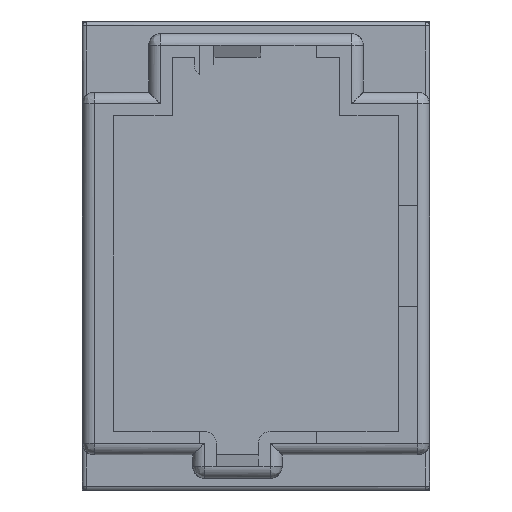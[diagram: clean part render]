
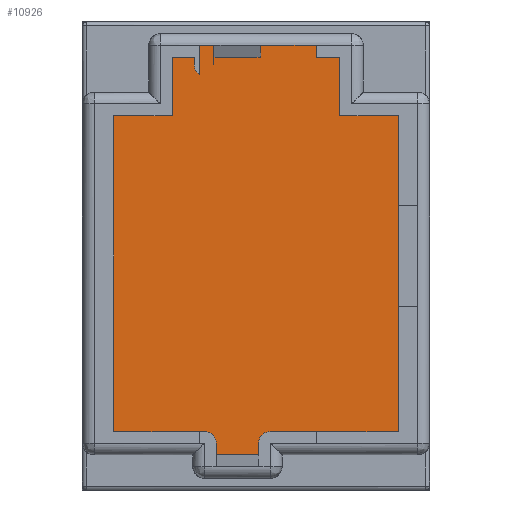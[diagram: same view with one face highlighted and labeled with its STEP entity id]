
A CAD part, front view. The second image highlights one B-rep face of the part: STEP entity #10926.
In plain terms, the highlighted planar face has unit normal (0, -1, 0).
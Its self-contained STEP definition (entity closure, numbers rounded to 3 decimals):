
#10926=ADVANCED_FACE('',(#11890),#33666,.T.);
#11890=FACE_OUTER_BOUND('',#12874,.T.);
#12874=EDGE_LOOP('',(#17544,#17545,#17546,#17547,#17548,#17549,#17550,#17551,
#17552,#17553,#17554,#17555,#17556,#17557,#17558,#17559,#17560,#17561));
#17544=ORIENTED_EDGE('',*,*,#22565,.T.);
#17545=ORIENTED_EDGE('',*,*,#22566,.T.);
#17546=ORIENTED_EDGE('',*,*,#22567,.T.);
#17547=ORIENTED_EDGE('',*,*,#22568,.T.);
#17548=ORIENTED_EDGE('',*,*,#22569,.T.);
#17549=ORIENTED_EDGE('',*,*,#22570,.T.);
#17550=ORIENTED_EDGE('',*,*,#22571,.T.);
#17551=ORIENTED_EDGE('',*,*,#22572,.T.);
#17552=ORIENTED_EDGE('',*,*,#22573,.T.);
#17553=ORIENTED_EDGE('',*,*,#22574,.T.);
#17554=ORIENTED_EDGE('',*,*,#22575,.T.);
#17555=ORIENTED_EDGE('',*,*,#22576,.T.);
#17556=ORIENTED_EDGE('',*,*,#22577,.T.);
#17557=ORIENTED_EDGE('',*,*,#22578,.T.);
#17558=ORIENTED_EDGE('',*,*,#22579,.T.);
#17559=ORIENTED_EDGE('',*,*,#22580,.T.);
#17560=ORIENTED_EDGE('',*,*,#22581,.T.);
#17561=ORIENTED_EDGE('',*,*,#22582,.T.);
#22565=EDGE_CURVE('',#32607,#32608,#23601,.T.);
#22566=EDGE_CURVE('',#32608,#32609,#27601,.T.);
#22567=EDGE_CURVE('',#32609,#32610,#27602,.T.);
#22568=EDGE_CURVE('',#32610,#32611,#27603,.T.);
#22569=EDGE_CURVE('',#32611,#32612,#27604,.T.);
#22570=EDGE_CURVE('',#32612,#32613,#27605,.T.);
#22571=EDGE_CURVE('',#32613,#32614,#27606,.T.);
#22572=EDGE_CURVE('',#32614,#32615,#27607,.T.);
#22573=EDGE_CURVE('',#32615,#32616,#27608,.T.);
#22574=EDGE_CURVE('',#32616,#32617,#27609,.T.);
#22575=EDGE_CURVE('',#32617,#32618,#27610,.T.);
#22576=EDGE_CURVE('',#32618,#32619,#27611,.T.);
#22577=EDGE_CURVE('',#32619,#32620,#27612,.T.);
#22578=EDGE_CURVE('',#32620,#32621,#27613,.T.);
#22579=EDGE_CURVE('',#32621,#32622,#27614,.T.);
#22580=EDGE_CURVE('',#32622,#32623,#27615,.T.);
#22581=EDGE_CURVE('',#32623,#32624,#27616,.T.);
#22582=EDGE_CURVE('',#32624,#32607,#27617,.T.);
#23601=(
BOUNDED_CURVE()
B_SPLINE_CURVE(2,(#56876,#56877,#56878),.UNSPECIFIED.,.F.,.F.)
B_SPLINE_CURVE_WITH_KNOTS((3,3),(0.,0.316),.UNSPECIFIED.)
CURVE()
GEOMETRIC_REPRESENTATION_ITEM()
RATIONAL_B_SPLINE_CURVE((1.,0.885,1.))
REPRESENTATION_ITEM('')
);
#27601=B_SPLINE_CURVE_WITH_KNOTS('',1,(#56879,#56880),.UNSPECIFIED.,.F.,
 .F.,(2,2),(0.,0.2),.UNSPECIFIED.);
#27602=B_SPLINE_CURVE_WITH_KNOTS('',1,(#56881,#56882),.UNSPECIFIED.,.F.,
 .F.,(2,2),(0.,0.57),.UNSPECIFIED.);
#27603=B_SPLINE_CURVE_WITH_KNOTS('',1,(#56883,#56884),.UNSPECIFIED.,.F.,
 .F.,(2,2),(0.,1.5),.UNSPECIFIED.);
#27604=B_SPLINE_CURVE_WITH_KNOTS('',1,(#56885,#56886),.UNSPECIFIED.,.F.,
 .F.,(2,2),(0.,1.5),.UNSPECIFIED.);
#27605=B_SPLINE_CURVE_WITH_KNOTS('',1,(#56887,#56888),.UNSPECIFIED.,.F.,
 .F.,(2,2),(0.,8.1),.UNSPECIFIED.);
#27606=B_SPLINE_CURVE_WITH_KNOTS('',1,(#56889,#56890),.UNSPECIFIED.,.F.,
 .F.,(2,2),(0.,2.2),.UNSPECIFIED.);
#27607=B_SPLINE_CURVE_WITH_KNOTS('',1,(#56891,#56892),.UNSPECIFIED.,.F.,
 .F.,(2,2),(0.,1.48),.UNSPECIFIED.);
#27608=B_SPLINE_CURVE_WITH_KNOTS('',1,(#56893,#56894),.UNSPECIFIED.,.F.,
 .F.,(2,2),(0.,3.),.UNSPECIFIED.);
#27609=B_SPLINE_CURVE_WITH_KNOTS('',1,(#56895,#56896),.UNSPECIFIED.,.F.,
 .F.,(2,2),(0.,1.48),.UNSPECIFIED.);
#27610=B_SPLINE_CURVE_WITH_KNOTS('',1,(#56897,#56898),.UNSPECIFIED.,.F.,
 .F.,(2,2),(0.,2.1),.UNSPECIFIED.);
#27611=B_SPLINE_CURVE_WITH_KNOTS('',1,(#56899,#56900),.UNSPECIFIED.,.F.,
 .F.,(2,2),(0.,8.1),.UNSPECIFIED.);
#27612=B_SPLINE_CURVE_WITH_KNOTS('',1,(#56901,#56902),.UNSPECIFIED.,.F.,
 .F.,(2,2),(0.,1.5),.UNSPECIFIED.);
#27613=B_SPLINE_CURVE_WITH_KNOTS('',1,(#56903,#56904),.UNSPECIFIED.,.F.,
 .F.,(2,2),(0.,1.5),.UNSPECIFIED.);
#27614=B_SPLINE_CURVE_WITH_KNOTS('',1,(#56905,#56906),.UNSPECIFIED.,.F.,
 .F.,(2,2),(0.,0.6),.UNSPECIFIED.);
#27615=B_SPLINE_CURVE_WITH_KNOTS('',1,(#56907,#56908),.UNSPECIFIED.,.F.,
 .F.,(2,2),(0.,0.88),.UNSPECIFIED.);
#27616=B_SPLINE_CURVE_WITH_KNOTS('',1,(#56909,#56910),.UNSPECIFIED.,.F.,
 .F.,(2,2),(0.,3.),.UNSPECIFIED.);
#27617=B_SPLINE_CURVE_WITH_KNOTS('',1,(#56911,#56912),.UNSPECIFIED.,.F.,
 .F.,(2,2),(0.,1.327),.UNSPECIFIED.);
#32607=VERTEX_POINT('',#56858);
#32608=VERTEX_POINT('',#56859);
#32609=VERTEX_POINT('',#56860);
#32610=VERTEX_POINT('',#56861);
#32611=VERTEX_POINT('',#56862);
#32612=VERTEX_POINT('',#56863);
#32613=VERTEX_POINT('',#56864);
#32614=VERTEX_POINT('',#56865);
#32615=VERTEX_POINT('',#56866);
#32616=VERTEX_POINT('',#56867);
#32617=VERTEX_POINT('',#56868);
#32618=VERTEX_POINT('',#56869);
#32619=VERTEX_POINT('',#56870);
#32620=VERTEX_POINT('',#56871);
#32621=VERTEX_POINT('',#56872);
#32622=VERTEX_POINT('',#56873);
#32623=VERTEX_POINT('',#56874);
#32624=VERTEX_POINT('',#56875);
#33666=PLANE('',#34624);
#34624=AXIS2_PLACEMENT_3D('',#56857,#35497,$);
#35497=DIRECTION('',(0.,-1.,0.));
#56857=CARTESIAN_POINT('',(-3.607,16.1,-2.647));
#56858=CARTESIAN_POINT('',(-0.65,16.1,-5.197));
#56859=CARTESIAN_POINT('',(-0.78,16.1,-4.95));
#56860=CARTESIAN_POINT('',(-0.78,16.1,-4.75));
#56861=CARTESIAN_POINT('',(-1.35,16.1,-4.75));
#56862=CARTESIAN_POINT('',(-1.35,16.1,-6.25));
#56863=CARTESIAN_POINT('',(-2.85,16.1,-6.25));
#56864=CARTESIAN_POINT('',(-2.85,16.1,-14.35));
#56865=CARTESIAN_POINT('',(-0.65,16.1,-14.35));
#56866=CARTESIAN_POINT('',(-0.65,16.1,-15.83));
#56867=CARTESIAN_POINT('',(2.35,16.1,-15.83));
#56868=CARTESIAN_POINT('',(2.35,16.1,-14.35));
#56869=CARTESIAN_POINT('',(4.45,16.1,-14.35));
#56870=CARTESIAN_POINT('',(4.45,16.1,-6.25));
#56871=CARTESIAN_POINT('',(2.95,16.1,-6.25));
#56872=CARTESIAN_POINT('',(2.95,16.1,-4.75));
#56873=CARTESIAN_POINT('',(2.35,16.1,-4.75));
#56874=CARTESIAN_POINT('',(2.35,16.1,-3.87));
#56875=CARTESIAN_POINT('',(-0.65,16.1,-3.87));
#56876=CARTESIAN_POINT('',(-0.65,16.1,-5.197));
#56877=CARTESIAN_POINT('',(-0.78,16.1,-5.108));
#56878=CARTESIAN_POINT('',(-0.78,16.1,-4.95));
#56879=CARTESIAN_POINT('',(-0.78,16.1,-4.95));
#56880=CARTESIAN_POINT('',(-0.78,16.1,-4.75));
#56881=CARTESIAN_POINT('',(-0.78,16.1,-4.75));
#56882=CARTESIAN_POINT('',(-1.35,16.1,-4.75));
#56883=CARTESIAN_POINT('',(-1.35,16.1,-4.75));
#56884=CARTESIAN_POINT('',(-1.35,16.1,-6.25));
#56885=CARTESIAN_POINT('',(-1.35,16.1,-6.25));
#56886=CARTESIAN_POINT('',(-2.85,16.1,-6.25));
#56887=CARTESIAN_POINT('',(-2.85,16.1,-6.25));
#56888=CARTESIAN_POINT('',(-2.85,16.1,-14.35));
#56889=CARTESIAN_POINT('',(-2.85,16.1,-14.35));
#56890=CARTESIAN_POINT('',(-0.65,16.1,-14.35));
#56891=CARTESIAN_POINT('',(-0.65,16.1,-14.35));
#56892=CARTESIAN_POINT('',(-0.65,16.1,-15.83));
#56893=CARTESIAN_POINT('',(-0.65,16.1,-15.83));
#56894=CARTESIAN_POINT('',(2.35,16.1,-15.83));
#56895=CARTESIAN_POINT('',(2.35,16.1,-15.83));
#56896=CARTESIAN_POINT('',(2.35,16.1,-14.35));
#56897=CARTESIAN_POINT('',(2.35,16.1,-14.35));
#56898=CARTESIAN_POINT('',(4.45,16.1,-14.35));
#56899=CARTESIAN_POINT('',(4.45,16.1,-14.35));
#56900=CARTESIAN_POINT('',(4.45,16.1,-6.25));
#56901=CARTESIAN_POINT('',(4.45,16.1,-6.25));
#56902=CARTESIAN_POINT('',(2.95,16.1,-6.25));
#56903=CARTESIAN_POINT('',(2.95,16.1,-6.25));
#56904=CARTESIAN_POINT('',(2.95,16.1,-4.75));
#56905=CARTESIAN_POINT('',(2.95,16.1,-4.75));
#56906=CARTESIAN_POINT('',(2.35,16.1,-4.75));
#56907=CARTESIAN_POINT('',(2.35,16.1,-4.75));
#56908=CARTESIAN_POINT('',(2.35,16.1,-3.87));
#56909=CARTESIAN_POINT('',(2.35,16.1,-3.87));
#56910=CARTESIAN_POINT('',(-0.65,16.1,-3.87));
#56911=CARTESIAN_POINT('',(-0.65,16.1,-3.87));
#56912=CARTESIAN_POINT('',(-0.65,16.1,-5.197));
